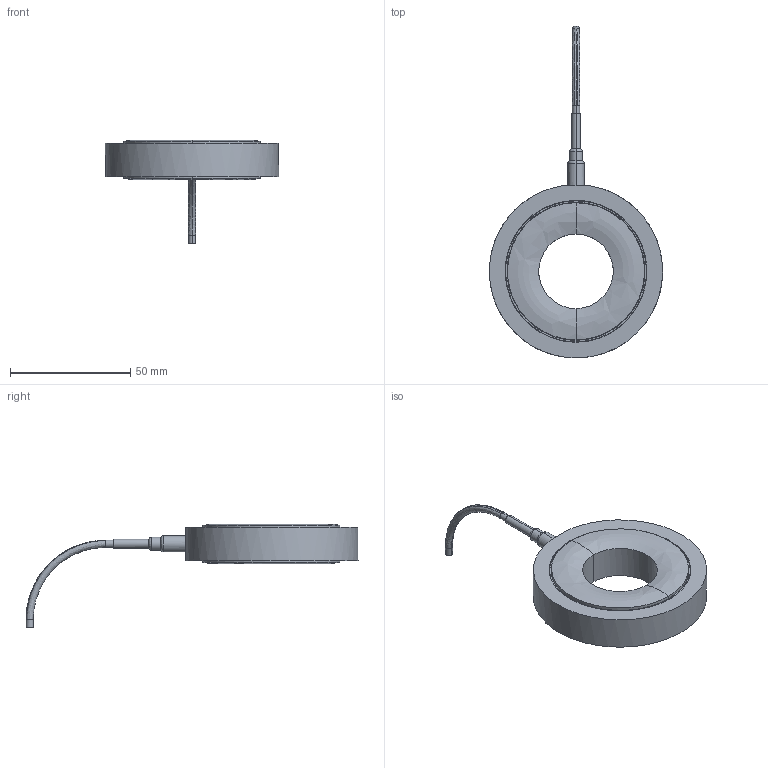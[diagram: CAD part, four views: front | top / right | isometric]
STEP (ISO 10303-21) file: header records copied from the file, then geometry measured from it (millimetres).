
FILE_DESCRIPTION (( 'STEP AP214' ), '1' );
FILE_NAME ('SM71-M30-600kN STEP.STEP', '2021-03-23T13:08:28', ( '' ), ( '' ), 'SwSTEP 2.0', 'SolidWorks 2019', '' );
FILE_SCHEMA (( 'AUTOMOTIVE_DESIGN' ));
Length unit declared in the file: millimetre
Products named in the file (2): SM71-M30-600kN STEP
Bounding box: 72.1 x 138.15 x 43.25 mm (x, y, z)
Volume: 50450.2 mm3; surface area: 12901.5 mm2
Topology: 1 solids, 1 shells, 48 faces, 98 edges, 56 vertices
Faces by surface type: bspline 41, plane 7
Entity records: 3967 total; most frequent: CARTESIAN_POINT 3191, ORIENTED_EDGE 196, EDGE_CURVE 98, B_SPLINE_CURVE_WITH_KNOTS 74, VERTEX_POINT 56, EDGE_LOOP 54, FACE_OUTER_BOUND 48, ADVANCED_FACE 48
